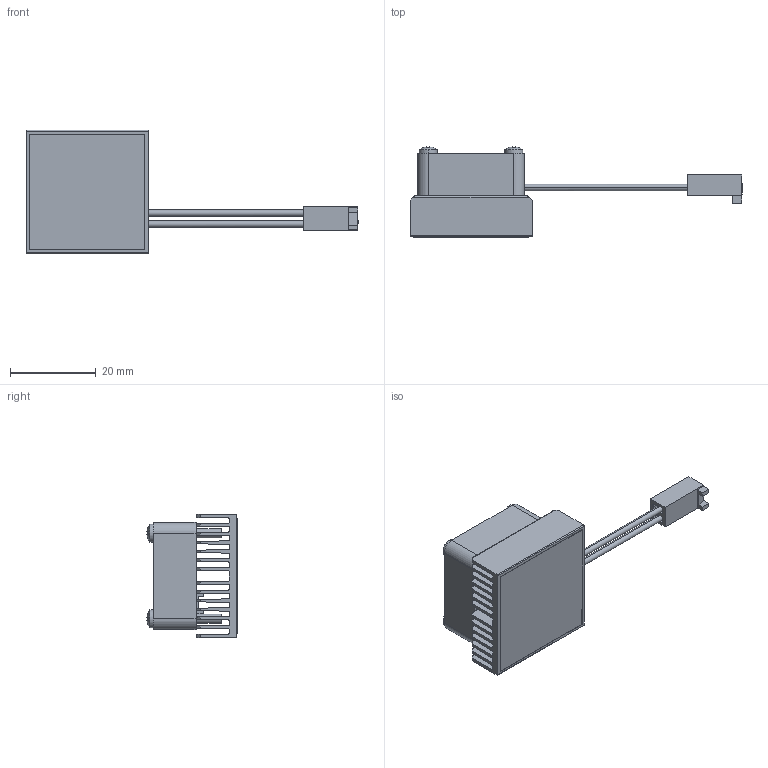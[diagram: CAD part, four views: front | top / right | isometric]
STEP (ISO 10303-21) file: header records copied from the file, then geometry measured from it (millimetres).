
FILE_DESCRIPTION (( 'STEP AP214' ), '1' );
FILE_NAME ('FJ29-1.7.STEP', '2023-03-22T00:35:54', ( '' ), ( '' ), 'SwSTEP 2.0', 'SolidWorks 2020', '' );
FILE_SCHEMA (( 'AUTOMOTIVE_DESIGN' ));
Length unit declared in the file: millimetre
Products named in the file (1): FJ29-1.7
Bounding box: 77.55 x 21.08 x 28.8 mm (x, y, z)
Volume: 7490.8 mm3; surface area: 14617.8 mm2
Topology: 7 solids, 7 shells, 343 faces, 954 edges, 632 vertices
Faces by surface type: plane 243, cylinder 82, bspline 14, sphere 4
Entity records: 15118 total; most frequent: CARTESIAN_POINT 2480, ORIENTED_EDGE 1892, DIRECTION 1737, EDGE_CURVE 946, LINE 649, VECTOR 649, VERTEX_POINT 628, AXIS2_PLACEMENT_3D 544
